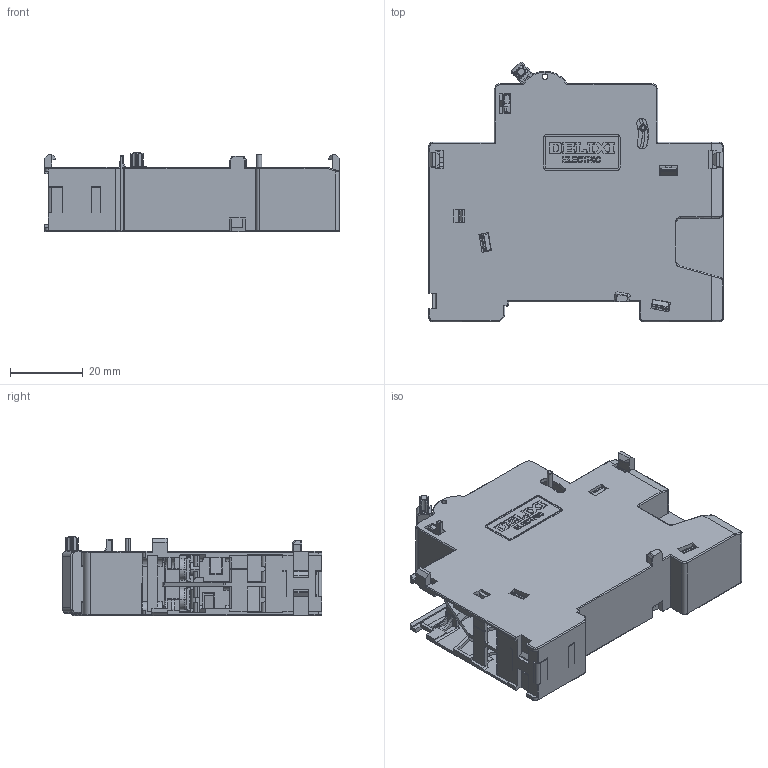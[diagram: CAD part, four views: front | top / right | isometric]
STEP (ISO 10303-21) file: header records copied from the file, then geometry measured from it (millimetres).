
FILE_DESCRIPTION((''),'2;1');
FILE_NAME('2297007700_SW0001','2023-11-08T',('dufeng.zhai'),(''),'PRO/ENGINEER BY PARAMETRIC TECHNOLOGY CORPORATION, 2015440','PRO/ENGINEER BY PARAMETRIC TECHNOLOGY CORPORATION, 2015440','');
FILE_SCHEMA(('CONFIG_CONTROL_DESIGN'));
Products named in the file (1): 2297007700_SW0001
Bounding box: 80.8 x 71.31 x 21.85 mm (x, y, z)
Volume: 57724.1 mm3; surface area: 38197.5 mm2
Topology: 1 solids, 1 shells, 2595 faces, 7412 edges, 4743 vertices
Faces by surface type: plane 1662, cylinder 622, cone 90, torus 67, bspline 67, sphere 44, extrusion 43
Entity records: 90943 total; most frequent: CARTESIAN_POINT 23529, ORIENTED_EDGE 14820, DIRECTION 13152, EDGE_CURVE 7410, VECTOR 5514, LINE 5471, VERTEX_POINT 4743, AXIS2_PLACEMENT_3D 3819
